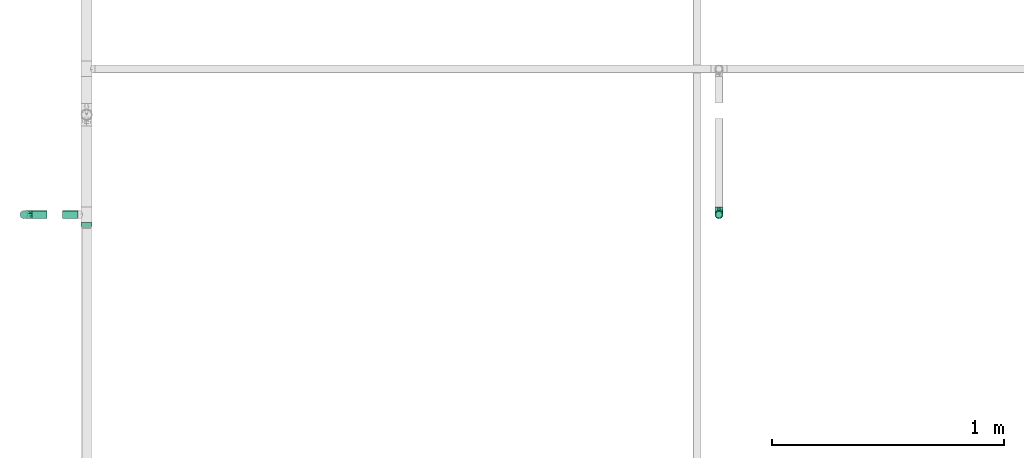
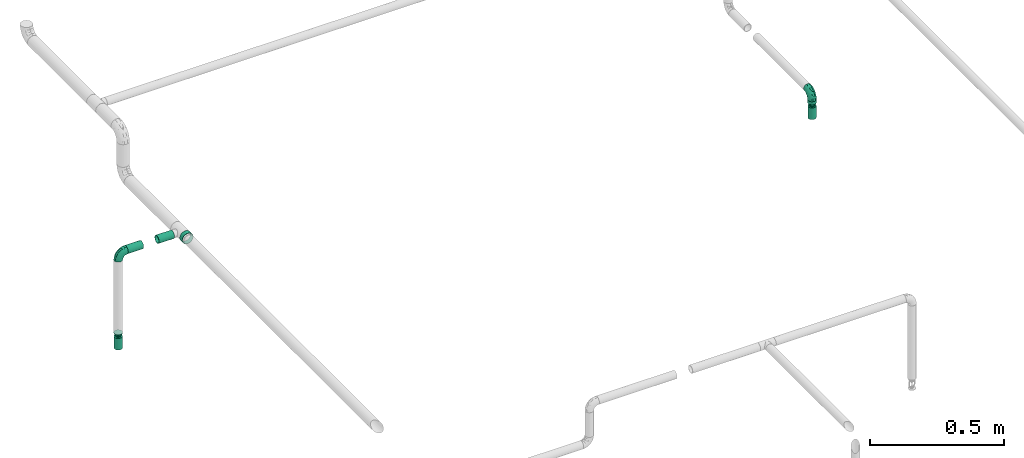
# One storey, part 11 of 17: 4 flow fittings, 4 flow segments, 2 flow terminals.
"""IFC2X3 building model written with IfcOpenShell, lengths in millimetres."""

from ifc_helpers import new_model, entity, si_unit, converted_unit, derived_unit, direction, frame, origin_with_axes, origin_2d_with_axis, place, context, subcontext, project, spatial, hollow_circle, extrude, open_shell, surface_model, source, transform, mapped, type_object, element, save


model = new_model("IFC2X3")

# Units and contexts
model_context = context("Model", 3, precision=0.01, world=frame((0.0, 4.29681676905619e-09, 0.0)), true_north=direction((4.01073788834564e-13, 1.0)))
plan_context = context("Plan", 3, precision=0.01, world=frame((0.0, 4.29681676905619e-09, 0.0)), true_north=direction((4.01073788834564e-13, 1.0)))
body_context = subcontext(model_context, "Body", "Model", "MODEL_VIEW")
ifc_project = project(units=[converted_unit("PLANEANGLEUNIT", "DEGREE", entity("IfcPositiveLengthMeasure", 0.0174532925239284), si_unit("PLANEANGLEUNIT", "RADIAN"), dimensions=[0, 0, 0, 0, 0, 0, 0]), si_unit("AREAUNIT", "SQUARE_METRE"), si_unit("LENGTHUNIT", "METRE", prefix="MILLI"), si_unit("MASSUNIT", "GRAM", prefix="KILO"), si_unit("POWERUNIT", "WATT"), si_unit("PRESSUREUNIT", "PASCAL", prefix="KILO"), si_unit("FORCEUNIT", "NEWTON", prefix="KILO"), si_unit("ELECTRICVOLTAGEUNIT", "VOLT"), si_unit("ELECTRICCURRENTUNIT", "AMPERE"), si_unit("THERMODYNAMICTEMPERATUREUNIT", "DEGREE_CELSIUS"), si_unit("TIMEUNIT", "SECOND"), si_unit("VOLUMEUNIT", "CUBIC_METRE"), derived_unit("LINEARVELOCITYUNIT", [(si_unit("LENGTHUNIT", "METRE"), 1), (si_unit("TIMEUNIT", "SECOND"), -1)]), derived_unit("VOLUMETRICFLOWRATEUNIT", [(si_unit("VOLUMEUNIT", "CUBIC_METRE"), 1), (si_unit("TIMEUNIT", "SECOND"), -1)]), derived_unit("THERMALTRANSMITTANCEUNIT", [(si_unit("POWERUNIT", "WATT"), 1), (si_unit("THERMODYNAMICTEMPERATUREUNIT", "KELVIN"), -1), (si_unit("AREAUNIT", "SQUARE_METRE"), -1)]), derived_unit("SOUNDPRESSUREUNIT", [(si_unit("PRESSUREUNIT", "PASCAL"), 1)])], contexts=[model_context, plan_context])

# Site, building, storey
site_placement = place(None, frame((0.0, -4.29681676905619e-09, 0.0), z_axis=(0.0, 0.0, 1.0), x_axis=(1.0, 0.0, 0.0)))
site = spatial("IfcSite", under=ifc_project, at=site_placement, CompositionType="ELEMENT")
building_placement = place(site_placement, frame((0.0, 4.29681676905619e-09, 0.0), z_axis=(0.0, 0.0, 1.0), x_axis=(1.0, 0.0, 0.0)))
building = spatial("IfcBuilding", under=site, at=building_placement, Name="mc-building", CompositionType="ELEMENT")
storey_placement = place(building_placement, frame((0.0, 0.0, 204000.0), z_axis=(0.0, 0.0, 1.0), x_axis=(1.0, 0.0, 0.0)))
storey = spatial("IfcBuildingStorey", under=building, at=storey_placement, Name="Nivå D", CompositionType="ELEMENT", Elevation=204000.0)

# Flow fittings
pipe_fitting_type_1 = type_object("IfcPipeFittingType", Name="magi_pipe_fe_elbow_short_001", PredefinedType="BEND")
shared_shape_1 = source(origin_with_axes(), body_context, "Body", "SurfaceModel", [
    surface_model("IfcShellBasedSurfaceModel", [(-33.8, 8.45, -14.63583), (-33.8, 4.37404, -16.32415), (-33.8, 11.9501, -11.9501), (-33.8, -11.9501, -11.9501), (-33.8, -14.63583, -8.45), (-33.8, -8.45, -14.63583), (-33.8, 0.0, -16.9), (-33.8, -4.37404, -16.32415), (-33.8, -4.37404, 16.32415), (-33.8, 0.0, 16.9), (-33.8, -8.45, 14.63583), (-33.8, 16.32415, -4.37404), (-33.8, 14.63583, -8.45), (-33.8, -16.32415, -4.37404), (-33.8, -16.9, 0.0), (-33.8, -16.32415, 4.37404), (-33.8, 11.9501, 11.9501), (-33.8, 14.63583, 8.45), (-33.8, 16.32415, 4.37404), (-33.8, 4.37404, 16.32415), (-33.8, 8.45, 14.63583), (-33.8, -14.63583, 8.45), (-33.8, -11.9501, 11.9501), (-33.8, 16.9, 0.0), (-11.9501, 33.8, -11.9501), (0.0, 33.8, -16.9), (-4.37404, 33.8, -16.32415), (-8.45, 33.8, -14.63583), (-14.63583, 33.8, -8.45), (-16.32415, 33.8, -4.37404), (14.63583, 33.8, -8.45), (8.45, 33.8, 14.63583), (16.32415, 33.8, -4.37404), (8.45, 33.8, -14.63583), (11.9501, 33.8, -11.9501), (4.37404, 33.8, -16.32415), (16.32415, 33.8, 4.37404), (16.9, 33.8, 0.0), (-11.9501, 33.8, 11.9501), (-16.32415, 33.8, 4.37404), (-14.63583, 33.8, 8.45), (-8.45, 33.8, 14.63583), (-4.37404, 33.8, 16.32415), (11.9501, 33.8, 11.9501), (14.63583, 33.8, 8.45), (0.0, 33.8, 16.9), (4.37404, 33.8, 16.32415), (-16.9, 33.8, 0.0), (-24.79389, -13.12945, 9.48721), (-22.19287, -9.75018, 12.59315), (-24.09897, -14.97035, 0.0), (-14.93934, -10.76256, 8.5297), (-22.46095, -14.75051, 5.27077), (14.75051, 22.46094, 5.27077), (11.9251, 13.23888, 4.33236), (13.04069, 14.39795, 0.0), (7.71387, 13.68847, 11.55891), (9.75018, 22.19287, 12.59315), (4.10169, 13.0571, 14.04018), (-24.84007, -6.39063, 15.2048), (-25.81779, -2.23879, 16.61097), (-23.66549, 2.59054, 16.87119), (-26.50418, 14.06512, 11.08152), (-24.21253, 17.66365, 7.72657), (-29.58514, 15.86957, 7.00283), (-6.17382, -7.5455, 0.0), (-13.23888, -11.9251, 4.33236), (-14.39795, -13.04069, 0.0), (-17.81434, 18.87373, 11.97104), (-6.30846, 29.15138, 15.82987), (-2.31622, 25.28002, 16.85849), (-29.23923, 10.23435, 13.77053), (-1.45439, -2.85688, 7.61475), (-0.28326, 0.34872, 10.09509), (-5.74484, -4.04709, 10.4122), (-4.41137, 11.31918, 16.59407), (-8.39727, 3.10034, 15.7812), (-1.72649, 9.1306, 15.53089), (-17.39909, 24.75344, 7.64977), (-26.19233, 20.0512, 0.0), (-28.14518, 17.29657, 4.25857), (-26.05147, 6.6281, 15.96447), (-5.87354, 16.61944, 16.86968), (-12.51807, 12.51807, 16.48937), (-10.06312, 7.38516, 16.81295), (-3.01882, 3.01882, 13.81718), (-13.0571, -4.10169, 14.04018), (-16.82553, -0.15166, 16.38038), (10.76256, 14.93934, 8.5297), (13.12945, 24.79389, 9.48721), (6.39063, 24.84007, 15.2048), (2.23879, 25.81779, 16.61097), (-13.68847, -7.71387, 11.55891), (14.97035, 24.09897, 0.0), (-7.30894, 22.89991, 16.09489), (-10.67958, 26.17414, 14.008), (-12.78295, 18.26924, 15.06066), (-13.88562, 22.45231, 12.93244), (-18.04944, 15.16501, 14.04434), (-23.11658, 20.08178, 4.02986), (-21.84989, 21.84989, 0.0), (-18.55817, 25.48277, 3.93065), (-13.95142, 26.94732, 11.03289), (-18.57098, 7.23906, 16.59756), (-16.58335, 4.14122, 16.89279), (-17.96666, 11.46709, 15.63151), (-9.84453, 17.54304, 16.18938), (0.15166, 16.82553, 16.38038), (-23.27207, 11.47201, 14.23154), (3.84842, 5.86994, 10.70473), (-8.0212, -7.54413, 7.93275), (1.00345, -2.19508, 4.57414), (5.13203, 3.01004, 5.90201), (5.24161, 1.7543, 2.53265), (8.70457, 7.04947, 3.99182), (-20.0512, 26.19233, 0.0), (8.4852, 8.76699, 7.09296), (-4.55488, -6.72064, 4.90681), (2.05031, -2.05031, 0.0), (7.5455, 6.17382, 0.0), (-26.75399, 2.1369, -16.845), (-14.61995, 24.73803, -11.27736), (-28.45274, -13.45335, -9.81895), (-26.00469, 6.63555, -15.96645), (-23.06726, 20.04573, -4.26202), (-13.80647, -4.26506, -14.17873), (-14.67501, -0.21081, -16.07388), (-6.7902, -0.2828, -13.8478), (-24.53586, 11.08096, -14.13417), (-26.72048, 14.00837, -11.05776), (10.0967, 24.44989, -12.75976), (5.83237, 21.40218, -15.03047), (6.66249, 28.54238, -15.38093), (-20.38182, 15.48705, -12.74596), (12.53268, 21.23441, -9.15363), (12.54494, 15.67504, -5.54878), (9.7522, 12.89279, -8.66343), (-15.65186, 19.64213, -13.01327), (-12.03528, 20.66498, -14.67665), (-15.61907, 15.61906, -14.83879), (-25.56551, -15.26206, 0.0), (-24.65452, -15.12934, -5.50955), (13.45335, 28.45274, -9.81895), (15.12934, 24.65452, -5.50955), (-7.35442, -8.31014, -5.65563), (-15.67504, -12.54494, -5.54878), (-24.44989, -10.0967, -12.75976), (0.16522, 0.41303, -9.71728), (-5.70658, -5.33066, -8.89288), (-5.13869, -2.37198, -11.53565), (-21.23441, -12.53268, -9.15363), (0.71146, 7.93863, -14.09382), (0.21081, 14.67501, -16.07388), (3.49291, 14.42772, -14.76381), (-24.89911, -2.13088, -16.591), (-28.54238, -6.66249, -15.38093), (-18.44386, -7.71663, -13.26957), (2.13088, 24.89911, -16.591), (-28.64342, 17.44413, -2.89318), (1.70017, -1.28722, -5.09504), (-16.57067, 26.81947, -7.36596), (-17.69055, 27.4263, -3.76405), (-12.89279, -9.7522, -8.66343), (-5.96611, 5.96611, -15.95814), (-20.53709, 20.09345, -8.28985), (-2.1369, 26.75399, -16.845), (-6.89872, 24.58781, -16.02578), (-10.60739, 26.53157, -13.98044), (-21.40218, -5.83237, -15.03047), (2.93192, 5.89627, -11.55917), (6.89393, 12.61842, -11.82233), (5.58056, 5.95325, -8.79455), (-3.99512, 18.61798, -16.89635), (8.31014, 7.35442, -5.65563), (-9.1383, 9.86148, -16.89041), (-9.99983, 16.02119, -16.39699), (-16.68576, 9.78031, -16.34199), (-27.01915, 16.61158, -7.12979), (15.26206, 25.56551, 0.0), (-18.61798, 3.99512, -16.89635), (-19.37495, 27.82495, 0.0), (-12.61842, -6.89393, -11.82233), (-18.84705, 19.14018, -10.96545)], [open_shell([[[0, 1, 2]], [[3, 4, 5]], [[6, 7, 5]], [[8, 9, 10]], [[1, 6, 2]], [[11, 12, 2]], [[4, 2, 6]], [[2, 13, 10]], [[5, 4, 6]], [[2, 4, 13]], [[14, 15, 13]], [[11, 2, 16]], [[11, 17, 18]], [[11, 16, 17]], [[19, 20, 16]], [[16, 2, 10]], [[19, 16, 10]], [[21, 22, 15]], [[22, 13, 15]], [[22, 10, 13]], [[10, 9, 19]], [[11, 18, 23]], [[24, 25, 26]], [[24, 26, 27]], [[24, 28, 29]], [[25, 24, 30]], [[31, 32, 24]], [[33, 30, 34]], [[33, 35, 25]], [[25, 30, 33]], [[32, 30, 24]], [[32, 36, 37]], [[38, 24, 29]], [[39, 40, 29]], [[40, 38, 29]], [[38, 41, 42]], [[38, 31, 24]], [[31, 38, 42]], [[36, 43, 44]], [[36, 32, 43]], [[31, 45, 46]], [[32, 31, 43]], [[42, 45, 31]], [[39, 29, 47]], [[22, 48, 49]], [[15, 14, 50]], [[51, 48, 52]], [[53, 54, 55]], [[48, 22, 21]], [[15, 52, 21]], [[56, 57, 58]], [[49, 10, 22]], [[49, 59, 10]], [[9, 60, 61]], [[62, 63, 64]], [[65, 66, 67]], [[57, 43, 31]], [[62, 68, 63]], [[42, 69, 70]], [[20, 71, 16]], [[8, 60, 9]], [[72, 73, 74]], [[75, 76, 77]], [[16, 62, 17]], [[40, 39, 78]], [[79, 23, 80]], [[64, 18, 17]], [[9, 61, 19]], [[19, 81, 20]], [[82, 83, 84]], [[74, 85, 86]], [[59, 86, 87]], [[88, 89, 57]], [[90, 31, 46]], [[44, 53, 36]], [[46, 45, 91]], [[54, 53, 88]], [[44, 89, 53]], [[92, 86, 49]], [[89, 44, 43]], [[10, 59, 8]], [[53, 55, 93]], [[93, 36, 53]], [[66, 52, 67]], [[94, 82, 70]], [[95, 96, 94]], [[97, 98, 96]], [[79, 99, 100]], [[41, 38, 95]], [[101, 100, 99]], [[68, 78, 63]], [[42, 41, 69]], [[23, 18, 80]], [[95, 94, 69]], [[78, 101, 99]], [[38, 102, 95]], [[70, 45, 42]], [[97, 95, 102]], [[15, 50, 52]], [[90, 57, 31]], [[57, 90, 58]], [[81, 19, 61]], [[103, 104, 84]], [[105, 81, 103]], [[38, 40, 102]], [[106, 96, 83]], [[94, 106, 82]], [[91, 70, 107]], [[71, 62, 16]], [[62, 108, 98]], [[86, 59, 49]], [[67, 52, 50]], [[60, 59, 87]], [[92, 49, 51]], [[86, 85, 76]], [[91, 90, 46]], [[37, 36, 93]], [[107, 77, 58]], [[107, 58, 90]], [[58, 85, 109]], [[110, 74, 92]], [[72, 74, 110]], [[66, 51, 52]], [[72, 111, 112]], [[113, 114, 112]], [[56, 88, 57]], [[52, 48, 21]], [[49, 48, 51]], [[57, 89, 43]], [[53, 89, 88]], [[103, 81, 61]], [[71, 81, 108]], [[18, 64, 80]], [[63, 78, 99]], [[47, 115, 101]], [[101, 115, 100]], [[40, 78, 102]], [[68, 102, 78]], [[97, 96, 95]], [[105, 98, 108]], [[103, 84, 83]], [[107, 70, 82]], [[76, 84, 87]], [[82, 84, 75]], [[70, 91, 45]], [[90, 91, 107]], [[59, 60, 8]], [[61, 60, 87]], [[73, 85, 74]], [[109, 112, 116]], [[103, 61, 104]], [[105, 103, 83]], [[96, 105, 83]], [[81, 105, 108]], [[96, 98, 105]], [[62, 98, 68]], [[61, 87, 104]], [[87, 84, 104]], [[86, 76, 87]], [[77, 76, 85]], [[58, 77, 85]], [[75, 77, 107]], [[82, 75, 107]], [[76, 75, 84]], [[81, 71, 20]], [[62, 71, 108]], [[95, 69, 41]], [[70, 69, 94]], [[62, 64, 17]], [[80, 63, 99]], [[63, 80, 64]], [[80, 99, 79]], [[66, 65, 117]], [[110, 66, 117]], [[112, 114, 116]], [[118, 117, 65]], [[110, 92, 51]], [[112, 111, 113]], [[119, 55, 54]], [[74, 86, 92]], [[58, 109, 56]], [[116, 56, 109]], [[66, 110, 51]], [[72, 110, 117]], [[111, 72, 117]], [[73, 112, 109]], [[117, 118, 111]], [[113, 111, 118]], [[118, 119, 113]], [[114, 119, 54]], [[119, 114, 113]], [[116, 54, 88]], [[54, 116, 114]], [[116, 88, 56]], [[112, 73, 72]], [[85, 73, 109]], [[78, 39, 101]], [[47, 101, 39]], [[102, 68, 97]], [[97, 68, 98]], [[82, 106, 83]], [[94, 96, 106]], [[1, 120, 6]], [[28, 24, 121]], [[3, 122, 4]], [[0, 123, 1]], [[100, 124, 79]], [[125, 126, 127]], [[128, 2, 129]], [[130, 131, 132]], [[128, 129, 133]], [[134, 135, 136]], [[137, 138, 139]], [[128, 0, 2]], [[67, 140, 141]], [[134, 142, 143]], [[141, 13, 4]], [[144, 65, 145]], [[146, 3, 5]], [[147, 148, 149]], [[145, 141, 150]], [[151, 152, 153]], [[154, 7, 6]], [[5, 155, 146]], [[150, 146, 156]], [[155, 5, 7]], [[143, 135, 134]], [[35, 157, 25]], [[23, 79, 158]], [[148, 159, 144]], [[160, 161, 29]], [[145, 162, 144]], [[163, 152, 151]], [[29, 28, 160]], [[121, 164, 160]], [[33, 34, 130]], [[25, 165, 26]], [[26, 165, 166]], [[142, 34, 30]], [[24, 27, 167]], [[124, 161, 164]], [[157, 35, 132]], [[155, 154, 168]], [[123, 0, 128]], [[169, 170, 171]], [[172, 157, 152]], [[26, 166, 27]], [[132, 35, 33]], [[142, 130, 34]], [[168, 154, 126]], [[136, 135, 173]], [[133, 137, 139]], [[2, 12, 129]], [[170, 131, 130]], [[30, 32, 143]], [[172, 174, 175]], [[176, 123, 128]], [[158, 177, 11]], [[135, 55, 119]], [[167, 27, 166]], [[175, 166, 172]], [[137, 167, 138]], [[122, 141, 4]], [[140, 14, 13]], [[32, 37, 178]], [[170, 130, 134]], [[152, 157, 131]], [[165, 157, 172]], [[153, 170, 151]], [[152, 163, 174]], [[168, 125, 156]], [[122, 146, 150]], [[120, 154, 6]], [[179, 174, 126]], [[179, 126, 154]], [[126, 163, 127]], [[162, 145, 150]], [[140, 13, 141]], [[32, 178, 143]], [[55, 143, 178]], [[177, 129, 12]], [[128, 133, 139]], [[176, 128, 139]], [[120, 123, 179]], [[121, 160, 28]], [[161, 100, 180]], [[166, 175, 138]], [[121, 24, 167]], [[161, 47, 29]], [[79, 124, 158]], [[124, 164, 177]], [[161, 124, 100]], [[136, 171, 170]], [[127, 163, 151]], [[147, 171, 159]], [[148, 144, 162]], [[127, 151, 169]], [[127, 181, 125]], [[129, 177, 164]], [[12, 11, 177]], [[159, 65, 144]], [[67, 141, 145]], [[143, 55, 135]], [[135, 119, 173]], [[123, 120, 1]], [[154, 120, 179]], [[157, 165, 25]], [[166, 165, 172]], [[172, 152, 174]], [[176, 139, 175]], [[126, 174, 163]], [[176, 174, 179]], [[174, 176, 175]], [[123, 176, 179]], [[150, 181, 162]], [[127, 149, 181]], [[181, 148, 162]], [[159, 148, 147]], [[171, 136, 173]], [[170, 134, 136]], [[159, 171, 173]], [[171, 147, 169]], [[169, 147, 149]], [[151, 170, 169]], [[164, 182, 129]], [[182, 121, 137]], [[181, 149, 148]], [[169, 149, 127]], [[182, 137, 133]], [[167, 137, 121]], [[166, 138, 167]], [[175, 139, 138]], [[129, 182, 133]], [[121, 182, 164]], [[161, 160, 164]], [[47, 161, 180]], [[177, 158, 124]], [[23, 158, 11]], [[130, 132, 33]], [[157, 132, 131]], [[143, 142, 30]], [[130, 142, 134]], [[154, 155, 7]], [[146, 155, 168]], [[146, 122, 3]], [[141, 122, 150]], [[152, 131, 153]], [[159, 119, 118]], [[67, 145, 65]], [[170, 153, 131]], [[119, 159, 173]], [[159, 118, 65]], [[156, 125, 181]], [[126, 125, 168]], [[150, 156, 181]], [[168, 156, 146]]])]),
])
for number, where, z_axis, x_axis, name in (
    (1, (595974.5, 404050.01942, 2780.0), (0.0, 1.0, 0.0), (0.0, 0.0, 1.0), "magi_pipe_fe_elbow_short_001"),
    (2, (598972.72783, 404050.01942, 2463.04800000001), (-1.0, 0.0, 0.0), (0.0, 0.0, 1.0), "magi_pipe_fe_elbow_short_001"),
):
    element("IfcFlowFitting", number, at=place(storey_placement, frame(where, z_axis=z_axis, x_axis=x_axis)), inside=storey, type_object=pipe_fitting_type_1, Name=name, context=body_context, shape_type="MappedRepresentation", body=[
        mapped(shared_shape_1, transform((0.0, 0.0, 0.0), scale=1.0)),
    ])
pipe_fitting_type_2 = type_object("IfcPipeFittingType", Name="magi_pipe_fe_reducer_centric_short_NOR", PredefinedType="TRANSITION")
shared_shape_2 = source(origin_with_axes(), body_context, "Body", "SurfaceModel", [
    surface_model("IfcShellBasedSurfaceModel", [(-2.0, -7.56604, -7.56604), (-2.0, -10.33541, -2.76936), (-2.0, -5.35, -9.26647), (-2.0, 5.35, -9.26647), (-2.0, 10.33541, -2.76936), (-2.0, 7.56604, -7.56604), (12.4, 11.9501, 11.9501), (12.4, 0.0, 16.9), (12.4, 11.9501, -11.9501), (12.4, 16.9, 0.0), (0.0, -10.7, 0.0), (0.0, -5.35, 9.26647), (0.0, -5.35, -9.26647), (0.0, 10.7, 0.0), (12.4, 15.66253, -2.98753), (12.4, 8.96258, -13.18758), (0.0, 6.6875, -6.94985), (12.4, -15.66253, -2.98753), (12.4, -16.9, 0.0), (12.4, 5.97505, -14.42505), (0.0, 5.35, -9.26647), (12.4, 14.42505, -5.97505), (0.0, 8.025, -4.63324), (0.0, 9.3625, -2.31662), (0.0, -9.3625, -2.31662), (0.0, -8.025, -4.63324), (12.4, -14.42505, -5.97505), (12.4, 13.18758, -8.96258), (12.4, -13.18758, -8.96258), (12.4, -11.9501, -11.9501), (0.0, -6.6875, -6.94985), (12.4, -8.96258, -13.18758), (12.4, -5.97505, -14.42505), (12.4, -15.66253, 2.98753), (12.4, -8.96258, 13.18758), (0.0, -6.6875, 6.94985), (12.4, -11.9501, 11.9501), (12.4, 15.66253, 2.98753), (12.4, -5.97505, 14.42505), (12.4, -14.42505, 5.97505), (0.0, -8.025, 4.63324), (0.0, -9.3625, 2.31662), (0.0, 9.3625, 2.31662), (0.0, 8.025, 4.63324), (12.4, 14.42505, 5.97505), (12.4, -13.18758, 8.96258), (12.4, 13.18758, 8.96258), (0.0, 6.6875, 6.94985), (12.4, 8.96258, 13.18758), (0.0, 5.35, 9.26647), (12.4, 5.97505, 14.42505), (14.4, 4.37404, -16.32415), (14.4, 8.45, -14.63583), (14.4, 11.9501, -11.9501), (14.4, -8.45, -14.63583), (14.4, 16.32415, -4.37404), (14.4, 16.32415, 4.37404), (14.4, 14.63583, -8.45), (14.4, 0.0, -16.9), (14.4, -4.37404, -16.32415), (14.4, -11.9501, -11.9501), (14.4, -16.32415, -4.37404), (14.4, -14.63583, -8.45), (14.4, -16.32415, 4.37404), (14.4, 16.9, 0.0), (14.4, 14.63583, 8.45), (14.4, 11.9501, 11.9501), (14.4, 4.37404, 16.32415), (14.4, 8.45, 14.63583), (14.4, 0.0, 16.9), (14.4, -14.63583, 8.45), (14.4, -16.9, 0.0), (14.4, -8.45, 14.63583), (14.4, -11.9501, 11.9501), (14.4, -4.37404, 16.32415), (12.4, 4.37404, 16.32415), (12.4, -14.63583, 8.45), (12.4, 16.32415, 4.37404), (12.4, 8.45, 14.63583), (12.4, 14.63583, 8.45), (12.4, -8.45, 14.63583), (12.4, -4.37404, 16.32415), (12.4, -16.32415, 4.37404), (12.4, -16.32415, -4.37404), (12.4, -8.45, -14.63583), (12.4, 16.32415, -4.37404), (12.4, 14.63583, -8.45), (12.4, 8.45, -14.63583), (12.4, 4.37404, -16.32415), (12.4, 0.0, -16.9), (12.4, -14.63583, -8.45), (12.4, -4.37404, -16.32415), (-2.0, 2.76936, 10.33541), (-2.0, 0.0, 10.7), (-2.0, 5.35, 9.26647), (-2.0, 7.56604, 7.56604), (-2.0, 9.26647, 5.35), (-2.0, 10.33541, 2.76936), (-2.0, -10.33541, 2.76936), (-2.0, -2.76936, 10.33541), (-2.0, -7.56604, 7.56604), (-2.0, -5.35, 9.26647), (-2.0, -9.26647, 5.35), (-2.0, -10.7, 0.0), (-2.0, 9.26647, -5.35), (-2.0, 2.76936, -10.33541), (-2.0, -9.26647, -5.35), (-2.0, 0.0, -10.7), (-2.0, -2.76936, -10.33541), (-2.0, 10.7, 0.0), (0.0, 0.0, -10.7), (0.0, 2.76936, -10.33541), (0.0, 10.33541, -2.76936), (0.0, 7.56604, -7.56604), (0.0, -10.33541, -2.76936), (0.0, 9.26647, -5.35), (0.0, 0.0, 10.7), (0.0, -2.76936, -10.33541), (0.0, -7.56604, -7.56604), (0.0, -9.26647, -5.35), (0.0, 10.33541, 2.76936), (0.0, 9.26647, 5.35), (0.0, 7.56604, 7.56604), (0.0, 2.76936, 10.33541), (0.0, -7.56604, 7.56604), (0.0, -10.33541, 2.76936), (0.0, -9.26647, 5.35), (0.0, -2.76936, 10.33541), (0.0, 2.675, -9.26647), (0.0, -2.675, -9.26647), (12.4, 2.98753, -15.66253), (0.0, 0.0, -9.26647), (12.4, -2.98753, -15.66253), (0.0, -2.675, 9.26647), (0.0, 2.675, 9.26647), (12.4, -2.98753, 15.66253), (0.0, 0.0, 9.26647), (12.4, 2.98753, 15.66253)], [open_shell([[[0, 1, 2]], [[3, 4, 5]], [[6, 7, 8]], [[8, 9, 6]], [[10, 11, 12]], [[13, 9, 14]], [[15, 16, 8]], [[17, 18, 10]], [[15, 19, 20]], [[21, 22, 23]], [[24, 25, 26]], [[22, 21, 27]], [[28, 26, 25]], [[29, 30, 31]], [[12, 32, 31]], [[10, 18, 33]], [[34, 35, 36]], [[37, 9, 13]], [[34, 38, 11]], [[39, 40, 41]], [[42, 43, 44]], [[40, 39, 45]], [[46, 44, 43]], [[6, 47, 48]], [[49, 50, 48]], [[51, 52, 53]], [[54, 51, 53]], [[53, 55, 56]], [[55, 53, 57]], [[53, 56, 54]], [[58, 54, 59]], [[58, 51, 54]], [[60, 61, 62]], [[61, 60, 54]], [[54, 63, 61]], [[56, 55, 64]], [[56, 65, 66]], [[56, 66, 67]], [[67, 63, 54]], [[67, 66, 68]], [[63, 67, 69]], [[69, 70, 63]], [[71, 61, 63]], [[70, 72, 73]], [[70, 69, 72]], [[72, 69, 74]], [[54, 56, 67]], [[75, 76, 7]], [[77, 75, 78]], [[6, 79, 77]], [[6, 77, 78]], [[76, 75, 77]], [[80, 76, 36]], [[80, 81, 7]], [[7, 76, 80]], [[82, 76, 77]], [[82, 83, 18]], [[82, 77, 84]], [[77, 85, 8]], [[8, 85, 86]], [[8, 87, 88]], [[84, 77, 8]], [[88, 89, 8]], [[83, 29, 90]], [[29, 83, 84]], [[84, 89, 91]], [[83, 82, 84]], [[8, 89, 84]], [[85, 77, 9]], [[83, 61, 18]], [[90, 62, 83]], [[54, 29, 84]], [[90, 29, 60]], [[59, 84, 91]], [[83, 62, 61]], [[61, 71, 18]], [[59, 54, 84]], [[60, 29, 54]], [[60, 62, 90]], [[58, 59, 91]], [[91, 89, 58]], [[88, 51, 89]], [[87, 52, 88]], [[57, 8, 86]], [[87, 8, 53]], [[55, 86, 85]], [[87, 53, 52]], [[52, 51, 88]], [[64, 55, 85]], [[57, 86, 55]], [[57, 53, 8]], [[9, 64, 85]], [[89, 51, 58]], [[77, 56, 9]], [[79, 65, 77]], [[68, 6, 78]], [[79, 6, 66]], [[67, 78, 75]], [[77, 65, 56]], [[56, 64, 9]], [[67, 68, 78]], [[66, 6, 68]], [[66, 65, 79]], [[69, 67, 75]], [[75, 7, 69]], [[81, 74, 7]], [[80, 72, 81]], [[70, 36, 76]], [[80, 36, 73]], [[63, 76, 82]], [[80, 73, 72]], [[72, 74, 81]], [[71, 63, 82]], [[70, 76, 63]], [[70, 73, 36]], [[18, 71, 82]], [[7, 74, 69]], [[92, 1, 93]], [[94, 1, 92]], [[95, 96, 97]], [[95, 97, 94]], [[98, 93, 1]], [[99, 100, 101]], [[99, 93, 100]], [[100, 98, 102]], [[93, 98, 100]], [[98, 1, 103]], [[94, 97, 1]], [[1, 97, 4]], [[5, 4, 104]], [[4, 3, 1]], [[105, 1, 3]], [[1, 0, 106]], [[2, 107, 108]], [[2, 1, 105]], [[105, 107, 2]], [[4, 97, 109]], [[20, 110, 111]], [[112, 20, 113]], [[114, 20, 112]], [[112, 113, 115]], [[116, 114, 112]], [[110, 12, 117]], [[110, 20, 12]], [[118, 114, 119]], [[114, 118, 12]], [[20, 114, 12]], [[112, 13, 120]], [[120, 121, 122]], [[120, 122, 123]], [[116, 112, 123]], [[123, 122, 49]], [[116, 124, 114]], [[125, 124, 126]], [[10, 114, 125]], [[124, 127, 11]], [[125, 114, 124]], [[127, 124, 116]], [[123, 112, 120]], [[1, 114, 103]], [[106, 119, 1]], [[12, 0, 2]], [[106, 0, 118]], [[117, 2, 108]], [[1, 119, 114]], [[114, 10, 103]], [[117, 12, 2]], [[118, 0, 12]], [[118, 119, 106]], [[110, 117, 108]], [[108, 107, 110]], [[105, 111, 107]], [[3, 20, 105]], [[115, 5, 104]], [[3, 5, 113]], [[112, 104, 4]], [[3, 113, 20]], [[20, 111, 105]], [[13, 112, 4]], [[115, 104, 112]], [[115, 113, 5]], [[109, 13, 4]], [[107, 111, 110]], [[97, 120, 109]], [[96, 121, 97]], [[49, 95, 94]], [[96, 95, 122]], [[123, 94, 92]], [[97, 121, 120]], [[120, 13, 109]], [[123, 49, 94]], [[122, 95, 49]], [[122, 121, 96]], [[116, 123, 92]], [[92, 93, 116]], [[99, 127, 93]], [[101, 11, 99]], [[126, 100, 102]], [[101, 100, 124]], [[125, 102, 98]], [[101, 124, 11]], [[11, 127, 99]], [[10, 125, 98]], [[126, 102, 125]], [[126, 124, 100]], [[103, 10, 98]], [[93, 127, 116]], [[18, 7, 36]], [[18, 29, 8]], [[89, 8, 29]], [[18, 8, 7]], [[13, 11, 49]], [[13, 20, 12]], [[13, 12, 11]], [[24, 26, 17]], [[10, 24, 17]], [[16, 15, 20]], [[30, 12, 31]], [[23, 14, 21]], [[19, 128, 20]], [[27, 8, 16]], [[32, 12, 129]], [[30, 28, 25]], [[130, 131, 128]], [[129, 132, 32]], [[16, 22, 27]], [[13, 14, 23]], [[128, 19, 130]], [[130, 89, 131]], [[131, 132, 129]], [[89, 132, 131]], [[28, 30, 29]], [[42, 44, 37]], [[13, 42, 37]], [[35, 34, 11]], [[47, 49, 48]], [[41, 33, 39]], [[38, 133, 11]], [[45, 36, 35]], [[50, 49, 134]], [[47, 46, 43]], [[135, 136, 133]], [[134, 137, 50]], [[35, 40, 45]], [[10, 33, 41]], [[133, 38, 135]], [[135, 7, 136]], [[136, 137, 134]], [[7, 137, 136]], [[46, 47, 6]]])]),
])
for number, where, z_axis, x_axis, name in (
    (3, (595974.5, 404050.01942, 2400.0), (0.0, -1.0, 0.0), (0.0, 0.0, 1.0), "magi_pipe_fe_reducer_centric_short_NOR"),
    (4, (598972.72783, 404050.01942, 2403.04800000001), (1.0, 0.0, 0.0), (0.0, 0.0, 1.0), "magi_pipe_fe_reducer_centric_short_NOR"),
):
    element("IfcFlowFitting", number, at=place(storey_placement, frame(where, z_axis=z_axis, x_axis=x_axis)), inside=storey, type_object=pipe_fitting_type_2, Name=name, context=body_context, shape_type="MappedRepresentation", body=[
        mapped(shared_shape_2, transform((0.0, 0.0, 0.0), scale=1.0)),
    ])

# Flow segments
pipe_segment_type = type_object("IfcPipeSegmentType", Name="Stålrør normaltykke", PredefinedType="RIGIDSEGMENT")
shared_shape_3 = source(origin_with_axes(), body_context, "Body", "SweptSolid", [
    extrude(hollow_circle(Radius=16.9, WallThickness=2.0, at=origin_2d_with_axis()), frame((0.0, 0.0, 0.0), z_axis=(1.0, 0.0, 0.0), x_axis=(0.0, 1.0, 0.0)), (0.0, 0.0, 1.0), 66.5),
])
for number, where, z_axis, x_axis in (
    (5, (596141.8663, 404050.01942, 2780.0), (0.0, 0.0, 1.0), (1.0, 0.0, 0.0)),
    (6, (596008.3, 404050.01942, 2780.0), (0.0, 0.0, 1.0), (1.0, 0.0, 0.0)),
):
    element("IfcFlowSegment", number, at=place(storey_placement, frame(where, z_axis=z_axis, x_axis=x_axis)), inside=storey, type_object=pipe_segment_type, Name="Stålrør normaltykke", context=body_context, shape_type="MappedRepresentation", body=[
        mapped(shared_shape_3, transform((0.0, 0.0, 0.0), scale=1.0)),
    ])
shared_shape_4 = source(origin_with_axes(), body_context, "Body", "SweptSolid", [
    extrude(hollow_circle(Radius=16.9, WallThickness=2.0, at=origin_2d_with_axis()), frame((0.0, 0.0, 0.0), z_axis=(1.0, 0.0, 0.0), x_axis=(0.0, 1.0, 0.0)), (0.0, 0.0, 1.0), 13.8),
])
flow_segment_1_placement = place(storey_placement, frame((598972.72783, 404050.01942, 2415.448), z_axis=(1.0, 0.0, 0.0), x_axis=(0.0, 0.0, 1.0)))
element("IfcFlowSegment", 7, at=flow_segment_1_placement, inside=storey, type_object=pipe_segment_type, Name="Stålrør normaltykke", context=body_context, shape_type="MappedRepresentation", body=[
    mapped(shared_shape_4, transform((0.0, 0.0, 0.0), scale=1.0, scale2=1.0, scale3=1.0, uniform=False)),
])
shared_shape_5 = source(origin_with_axes(), body_context, "Body", "SweptSolid", [
    extrude(hollow_circle(Radius=24.1, WallThickness=2.0, at=origin_2d_with_axis()), frame((0.0, 0.0, 0.0), z_axis=(1.0, 0.0, 0.0), x_axis=(0.0, 1.0, 0.0)), (0.0, 0.0, 1.0), 18.8),
])
flow_segment_2_placement = place(storey_placement, frame((596244.66498, 403997.43152, 2780.0), z_axis=(0.0, 0.0, 1.0), x_axis=(0.0, 1.0, 0.0)))
element("IfcFlowSegment", 8, at=flow_segment_2_placement, inside=storey, type_object=pipe_segment_type, Name="Stålrør normaltykke", context=body_context, shape_type="MappedRepresentation", body=[
    mapped(shared_shape_5, transform((0.0, 0.0, 0.0), scale=1.0)),
])

# Flow terminals
fire_suppression_terminal_type = type_object("IfcFireSuppressionTerminalType", Name="SP-15-K80-68DGR-STD", PredefinedType="NOTDEFINED")
shared_shape_6 = source(origin_with_axes(), body_context, "Body", "SurfaceModel", [
    surface_model("IfcShellBasedSurfaceModel", [(4.1411, -15.45481, 53.0), (8.0, -13.85641, 53.0), (11.31371, -11.31371, 53.0), (-8.0, -13.85641, 53.0), (15.45481, -4.1411, 53.0), (16.0, 0.0, 53.0), (13.85641, -8.0, 53.0), (0.0, -16.0, 53.0), (-4.1411, -15.45481, 53.0), (-13.85641, -8.0, 53.0), (-11.31371, -11.31371, 53.0), (-15.45481, -4.1411, 53.0), (15.45481, 4.1411, 53.0), (13.85641, 8.0, 53.0), (11.31371, 11.31371, 53.0), (-4.1411, 15.45481, 53.0), (8.0, 13.85641, 53.0), (4.1411, 15.45481, 53.0), (0.0, 16.0, 53.0), (-13.85641, 8.0, 53.0), (-15.45481, 4.1411, 53.0), (-16.0, 0.0, 53.0), (-11.31371, 11.31371, 53.0), (-8.0, 13.85641, 53.0), (0.0, 16.0, 0.0), (4.1411, 15.45481, 0.0), (8.0, 13.85641, 0.0), (-4.1411, 15.45481, 0.0), (11.31371, 11.31371, 0.0), (13.85641, 8.0, 0.0), (15.45481, 4.1411, 0.0), (-15.45481, -4.1411, 0.0), (-11.31371, 11.31371, 0.0), (-8.0, 13.85641, 0.0), (-13.85641, 8.0, 0.0), (-15.45481, 4.1411, 0.0), (-16.0, 0.0, 0.0), (4.1411, -15.45481, 0.0), (16.0, 0.0, 0.0), (15.45481, -4.1411, 0.0), (13.85641, -8.0, 0.0), (11.31371, -11.31371, 0.0), (8.0, -13.85641, 0.0), (-8.0, -13.85641, 0.0), (-13.85641, -8.0, 0.0), (-11.31371, -11.31371, 0.0), (0.0, -16.0, 0.0), (-4.1411, -15.45481, 0.0)], [open_shell([[[0, 1, 2]], [[3, 0, 2]], [[4, 5, 2]], [[4, 2, 6]], [[3, 2, 5]], [[7, 3, 8]], [[7, 0, 3]], [[3, 9, 10]], [[9, 3, 11]], [[5, 11, 3]], [[5, 12, 11]], [[12, 13, 14]], [[15, 12, 14]], [[16, 17, 18]], [[14, 16, 15]], [[18, 15, 16]], [[11, 19, 20]], [[21, 11, 20]], [[22, 15, 23]], [[15, 22, 19]], [[19, 11, 15]], [[11, 12, 15]], [[24, 25, 26]], [[27, 24, 26]], [[28, 29, 30]], [[27, 26, 28]], [[27, 28, 31]], [[27, 32, 33]], [[32, 27, 34]], [[34, 31, 35]], [[31, 34, 27]], [[35, 31, 36]], [[28, 30, 31]], [[37, 38, 39]], [[37, 39, 40]], [[41, 42, 37]], [[41, 37, 40]], [[38, 37, 43]], [[44, 43, 45]], [[43, 44, 31]], [[43, 46, 47]], [[43, 31, 38]], [[37, 46, 43]], [[38, 31, 30]], [[11, 31, 44]], [[45, 9, 44]], [[3, 43, 47]], [[45, 43, 10]], [[8, 47, 46]], [[31, 21, 36]], [[31, 11, 21]], [[44, 9, 11]], [[45, 10, 9]], [[3, 10, 43]], [[47, 8, 3]], [[46, 7, 8]], [[0, 37, 42]], [[41, 1, 42]], [[6, 40, 39]], [[41, 40, 2]], [[4, 39, 38]], [[37, 0, 7]], [[42, 1, 0]], [[41, 2, 1]], [[40, 6, 2]], [[4, 6, 39]], [[38, 5, 4]], [[37, 7, 46]], [[12, 38, 30]], [[13, 30, 29]], [[16, 26, 25]], [[17, 25, 24]], [[30, 13, 12]], [[12, 5, 38]], [[28, 14, 13]], [[28, 26, 14]], [[14, 26, 16]], [[25, 17, 16]], [[28, 13, 29]], [[24, 18, 17]], [[15, 27, 33]], [[32, 23, 33]], [[19, 34, 35]], [[32, 34, 22]], [[20, 35, 36]], [[27, 15, 18]], [[33, 23, 15]], [[32, 22, 23]], [[34, 19, 22]], [[20, 19, 35]], [[36, 21, 20]], [[27, 18, 24]]])]),
])
for number, where, z_axis, x_axis in (
    (9, (595974.5, 404050.01942, 2396.95199999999), (0.0, 0.0, -1.0), (1.0, 0.0, 0.0)),
    (10, (598972.72783, 404050.01942, 2400.0), (0.0, 0.0, -1.0), (1.0, 0.0, 0.0)),
):
    element("IfcFlowTerminal", number, at=place(storey_placement, frame(where, z_axis=z_axis, x_axis=x_axis)), inside=storey, type_object=fire_suppression_terminal_type, Name="SP-15-K80-68DGR-STD", context=body_context, shape_type="MappedRepresentation", body=[
        mapped(shared_shape_6, transform((0.0, 0.0, 0.0), scale=1.0)),
    ])

save(model, "model.ifc")
